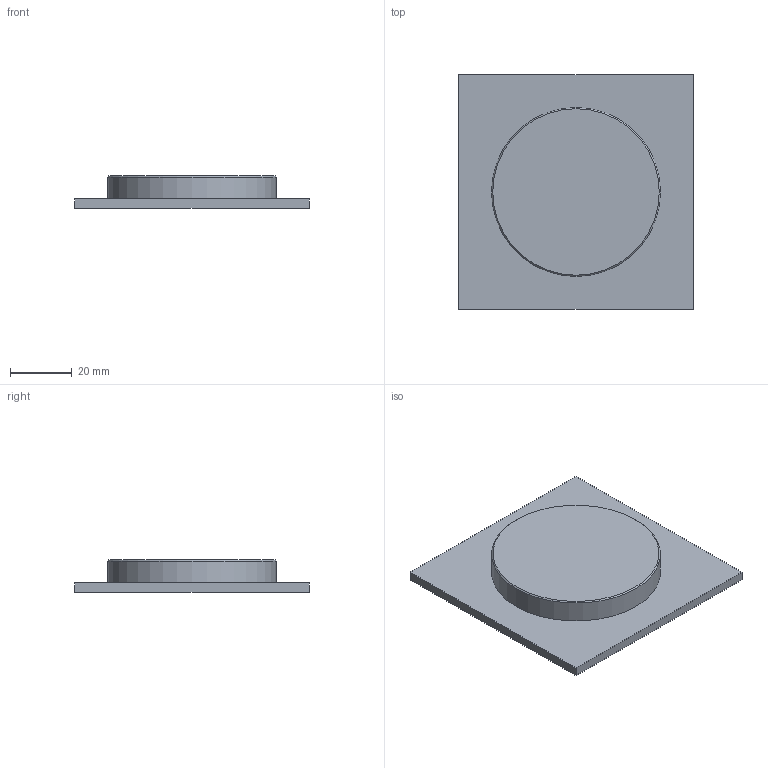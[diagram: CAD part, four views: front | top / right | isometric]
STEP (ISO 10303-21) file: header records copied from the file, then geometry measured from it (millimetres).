
FILE_DESCRIPTION(/* description */ ('STEP AP214','CAx-IF Rec.Pracs.---User Defined Attributes---1.5---2016-08-15'),/* implementation_level */ '2;1');
FILE_NAME(/* name */ '6ae31f07f048ba5c842f5e33',/* time_stamp */ '2026-10-29T10:25:12Z',/* author */ (''),/* organization */ (''),/* preprocessor_version */ 'ST-DEVELOPER v20',/* originating_system */ 'ONSHAPE BY PTC INC, 1.222',/* authorisation */ ' ');
FILE_SCHEMA (('AUTOMOTIVE_DESIGN {1 0 10303 214 3 1 1}'));
Length unit declared in the file: metre
Products named in the file (1): click_sockel
Bounding box: 76 x 76 x 10.5 mm (x, y, z)
Volume: 34939.2 mm3; surface area: 13712.4 mm2
Topology: 1 solids, 1 shells, 9 faces, 17 edges, 11 vertices
Faces by surface type: plane 7, cylinder 1, cone 1
Full cylindrical faces by diameter (mm): 54.7 x1
Entity records: 246 total; most frequent: DIRECTION 38, CARTESIAN_POINT 36, ORIENTED_EDGE 30, EDGE_CURVE 15, AXIS2_PLACEMENT_3D 13, LINE 12, VECTOR 12, EDGE_LOOP 12
